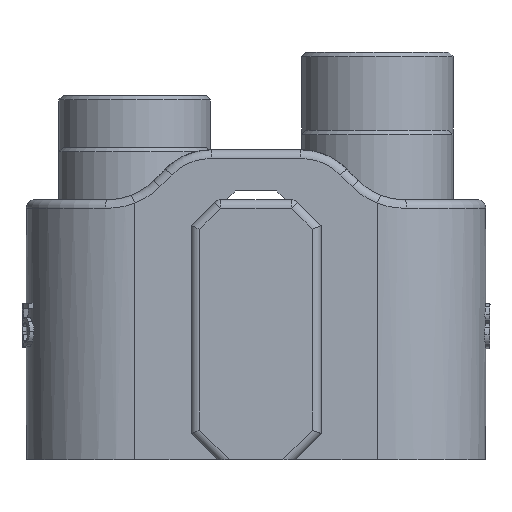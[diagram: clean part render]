
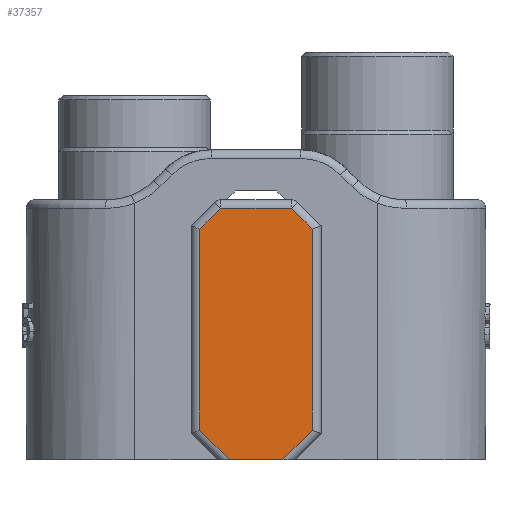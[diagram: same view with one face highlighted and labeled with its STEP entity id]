
A CAD part, left-side view. The second image highlights one B-rep face of the part: STEP entity #37357.
In plain terms, the highlighted planar face has unit normal (-1, 0, 0).
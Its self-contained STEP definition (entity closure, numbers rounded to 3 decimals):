
#3815=PLANE('',#39882);
#4844=FACE_OUTER_BOUND('',#7198,.T.);
#7198=EDGE_LOOP('',(#25771,#25772,#25773,#25774,#25775,#25776,#25777,#25778));
#9569=LINE('',#48131,#12576);
#9570=LINE('',#48136,#12577);
#9574=LINE('',#48153,#12581);
#9579=LINE('',#48171,#12586);
#9585=LINE('',#48200,#12592);
#9637=LINE('',#48368,#12644);
#9638=LINE('',#48370,#12645);
#9673=LINE('',#48437,#12680);
#12576=VECTOR('',#41645,10.);
#12577=VECTOR('',#41650,10.);
#12581=VECTOR('',#41666,10.);
#12586=VECTOR('',#41683,10.);
#12592=VECTOR('',#41715,10.);
#12644=VECTOR('',#41899,10.);
#12645=VECTOR('',#41902,10.);
#12680=VECTOR('',#41961,10.);
#15934=VERTEX_POINT('',#48128);
#15935=VERTEX_POINT('',#48130);
#15936=VERTEX_POINT('',#48134);
#15937=VERTEX_POINT('',#48135);
#15944=VERTEX_POINT('',#48152);
#15951=VERTEX_POINT('',#48169);
#15954=VERTEX_POINT('',#48179);
#15959=VERTEX_POINT('',#48192);
#19512=EDGE_CURVE('',#15934,#15935,#9569,.T.);
#19514=EDGE_CURVE('',#15936,#15937,#9570,.T.);
#19522=EDGE_CURVE('',#15935,#15944,#9574,.T.);
#19531=EDGE_CURVE('',#15951,#15936,#9579,.T.);
#19545=EDGE_CURVE('',#15959,#15951,#9585,.T.);
#19631=EDGE_CURVE('',#15954,#15959,#9637,.T.);
#19632=EDGE_CURVE('',#15944,#15954,#9638,.T.);
#19667=EDGE_CURVE('',#15937,#15934,#9673,.T.);
#25771=ORIENTED_EDGE('',*,*,#19512,.F.);
#25772=ORIENTED_EDGE('',*,*,#19667,.F.);
#25773=ORIENTED_EDGE('',*,*,#19514,.F.);
#25774=ORIENTED_EDGE('',*,*,#19531,.F.);
#25775=ORIENTED_EDGE('',*,*,#19545,.F.);
#25776=ORIENTED_EDGE('',*,*,#19631,.F.);
#25777=ORIENTED_EDGE('',*,*,#19632,.F.);
#25778=ORIENTED_EDGE('',*,*,#19522,.F.);
#37357=ADVANCED_FACE('',(#4844),#3815,.T.);
#39882=AXIS2_PLACEMENT_3D('',#48465,#41986,#41987);
#41645=DIRECTION('',(0.,0.707,0.707));
#41650=DIRECTION('',(0.,0.707,-0.707));
#41666=DIRECTION('',(0.,0.,1.));
#41683=DIRECTION('',(0.,0.,-1.));
#41715=DIRECTION('',(0.,-0.707,-0.707));
#41899=DIRECTION('',(0.,-1.,0.));
#41902=DIRECTION('',(0.,-0.707,0.707));
#41961=DIRECTION('',(0.,1.,0.));
#41986=DIRECTION('center_axis',(-1.,0.,0.));
#41987=DIRECTION('ref_axis',(0.,1.,0.));
#48128=CARTESIAN_POINT('',(47.14,-11.014,-12.688));
#48130=CARTESIAN_POINT('',(47.14,-7.6,-9.273));
#48131=CARTESIAN_POINT('',(47.14,-5.057,-6.73));
#48134=CARTESIAN_POINT('',(47.14,-20.6,-9.273));
#48135=CARTESIAN_POINT('',(47.14,-17.186,-12.688));
#48136=CARTESIAN_POINT('',(47.14,-26.893,-2.98));
#48152=CARTESIAN_POINT('',(47.14,-7.6,13.898));
#48153=CARTESIAN_POINT('',(47.14,-7.6,17.313));
#48169=CARTESIAN_POINT('',(47.14,-20.6,13.898));
#48171=CARTESIAN_POINT('',(47.14,-20.6,17.313));
#48179=CARTESIAN_POINT('',(47.14,-10.014,16.313));
#48192=CARTESIAN_POINT('',(47.14,-18.186,16.313));
#48200=CARTESIAN_POINT('',(47.14,-19.393,15.105));
#48368=CARTESIAN_POINT('',(47.14,-17.85,16.313));
#48370=CARTESIAN_POINT('',(47.14,-12.557,18.855));
#48437=CARTESIAN_POINT('',(47.14,-6.6,-12.688));
#48465=CARTESIAN_POINT('Origin',(47.14,-21.6,17.313));
